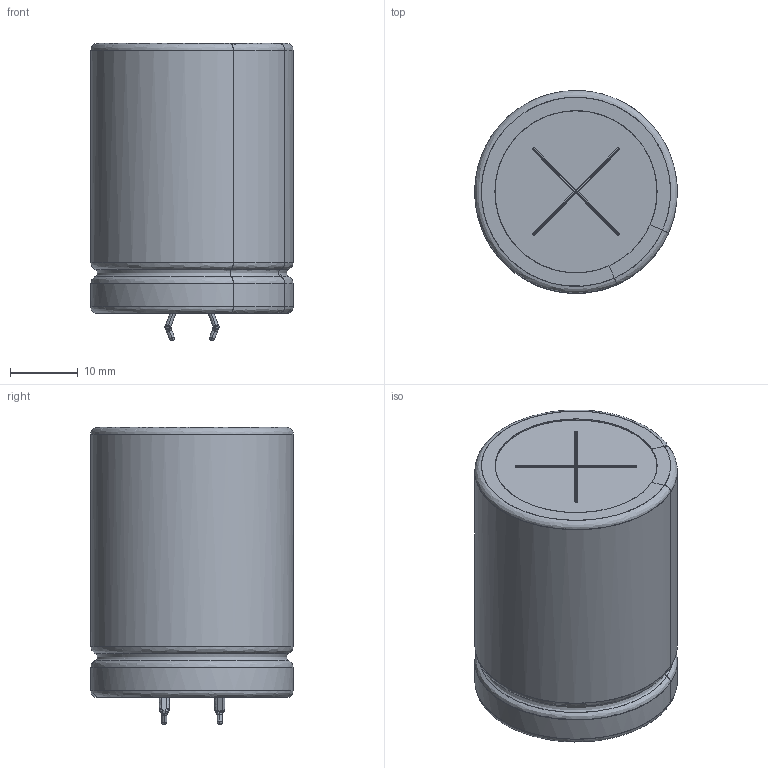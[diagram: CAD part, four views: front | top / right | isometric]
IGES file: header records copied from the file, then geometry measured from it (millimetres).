
Start section: JAMA-IS VERSION  1.0
Bounding box: 29.99 x 29.99 x 44.02 mm (x, y, z)
Surface area: 13739.4 mm2 (no closed solid volume)
Topology: 0 solids, 0 shells, 208 faces, 2354 edges, 2318 vertices
Faces by surface type: bspline 208
